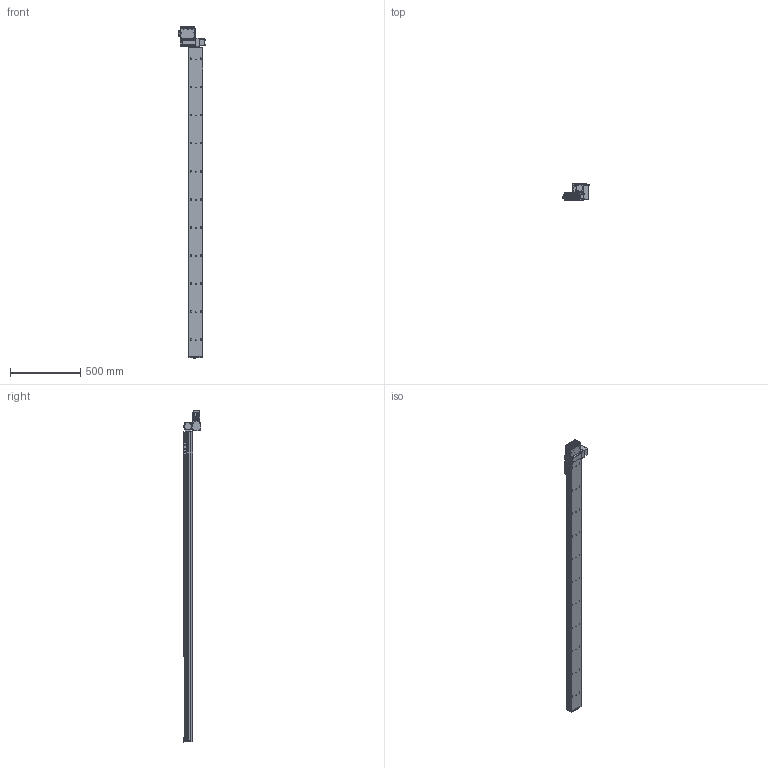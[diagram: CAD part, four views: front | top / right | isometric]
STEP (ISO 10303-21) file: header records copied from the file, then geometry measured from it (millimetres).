
FILE_DESCRIPTION (( 'STEP AP203' ), '1' );
FILE_NAME ('S10 TBH LH S2200.STEP', '2012-06-19T07:12:52', ( 'Conseil Régional Haute-Normandie' ), ( 'Conseil Régional Haute-Normandie' ), 'SwSTEP 2.0', 'SolidWorks 2010', '' );
FILE_SCHEMA (( 'CONFIG_CONTROL_DESIGN' ));
Products named in the file (30): cache t皻e axe_Default; plaque de bout s10_Default; Plaque racord_Default; T_X2_00F4_X0_le contre le moteur_5; Assem1_7; BU41 Carte Alimentation P05_3; T_X2_00F4_X0_le fond_3; Connecteur rond D10 3cts_5; T_X2_00F4_X0_le Arri_X2_00E8_X0_re_5; T_X2_00F4_X0_le lat_X2_00E9_X0_rale_5; Vis TF 3 torkx_1_1; S10 TBH LH S2200; cache t皻e_Default; Cvis M5 L30_Default; embout; palette tbn; renvoi LH_Default; vis M5 L12_Default; Vis M5 L16-2_Default_1; vis M5 L5_Default; Colonnette_3; BU45 Carte d''axe A11_5; Moteur 60BLDC90A_3; Couvercle_3; Connecteur rond D12 4cts_5; Sub D 9cts 90_X2_00B_X0__3; Radiateur profil_X2_00E9_X0_ 100x25_3; Colonnette ronde_3; axe2200_Default; axe 2200
Assembly tree (63 placements, depth 3):
  S10 TBH LH S2200
    Assem1_7
      Radiateur profil_X2_00E9_X0_ 100x25_3
      Vis TF 3 torkx_1_1  x21
      T_X2_00F4_X0_le fond_3
      Connecteur rond D10 3cts_5  x2
      Connecteur rond D12 4cts_5
      BU41 Carte Alimentation P05_3
      Moteur 60BLDC90A_3
      Colonnette_3  x2
      Sub D 9cts 90_X2_00B_X0__3
      T_X2_00F4_X0_le lat_X2_00E9_X0_rale_5  x2
      T_X2_00F4_X0_le contre le moteur_5
      BU45 Carte d''axe A11_5
      Couvercle_3
      Colonnette ronde_3
      T_X2_00F4_X0_le Arri_X2_00E8_X0_re_5
    vis M5 L5_Default  x4
    Vis M5 L16-2_Default_1  x4
    plaque de bout s10_Default
    cache t皻e_Default  x2
    Cvis M5 L30_Default  x2
    Plaque racord_Default
    vis M5 L12_Default  x4
    cache t皻e axe_Default
    palette tbn
    axe2200_Default
      axe 2200
    embout
    renvoi LH_Default
Bounding box: 189.8 x 124.73 x 2366.53 mm (x, y, z)
Volume: 12245553 mm3; surface area: 1346814.4 mm2
Topology: 61 solids, 61 shells, 2360 faces, 5844 edges, 3767 vertices
Faces by surface type: plane 1111, cylinder 1024, cone 182, bspline 40, torus 3
Entity records: 49584 total; most frequent: CARTESIAN_POINT 8903, DIRECTION 8037, ORIENTED_EDGE 7268, EDGE_CURVE 3634, AXIS2_PLACEMENT_3D 3000, VERTEX_POINT 2371, LINE 2037, VECTOR 2037
